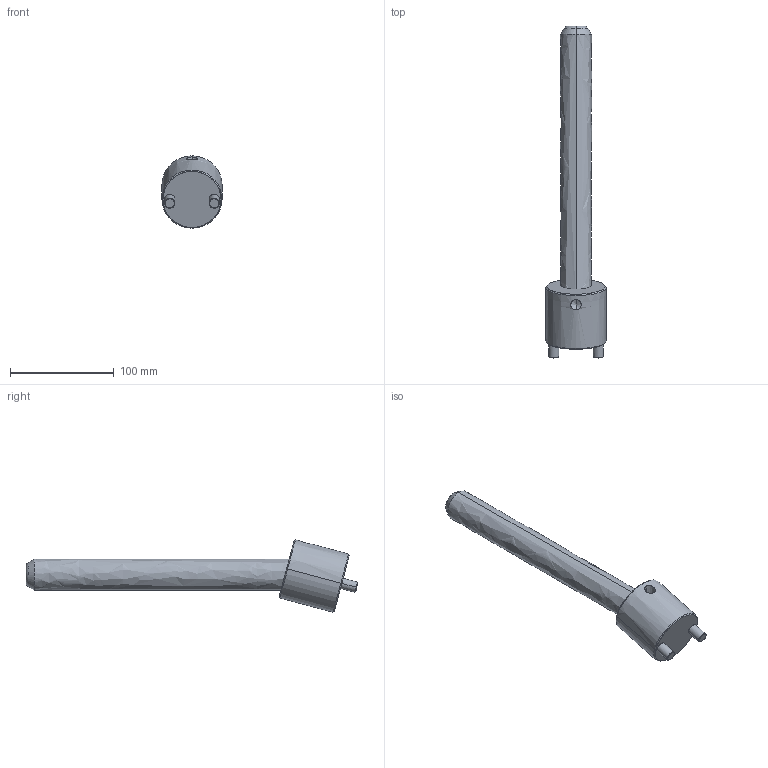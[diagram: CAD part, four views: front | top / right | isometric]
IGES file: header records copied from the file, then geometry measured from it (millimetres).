
Start section: START RECORD GO HERE.
Global section: file name: CI1530250.igs; native system: DASSAULT SYSTEMES CATIA V5 R20 - www.3ds.com; preprocessor: CATIA Version 5 Release 20 ; author: r.borello; organization: CFTORINO; date: 20190621.162253; units: millimetre
Bounding box: 58 x 320.33 x 69.74 mm (x, y, z)
Surface area: 49641.4 mm2 (no closed solid volume)
Topology: 0 solids, 0 shells, 39 faces, 162 edges, 160 vertices
Faces by surface type: revolution 32, plane 7
